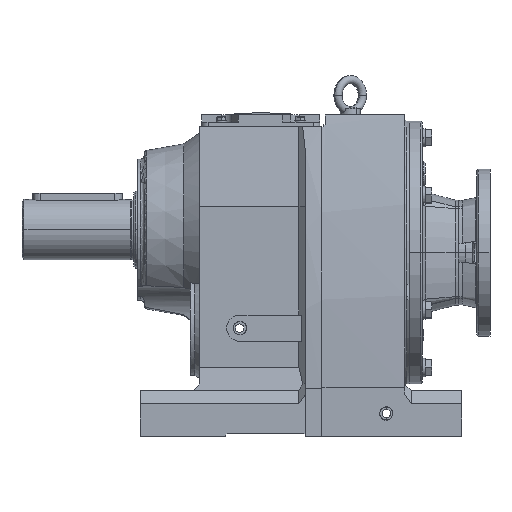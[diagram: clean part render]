
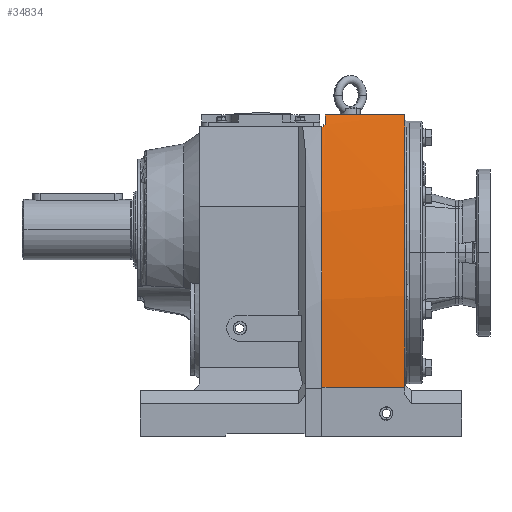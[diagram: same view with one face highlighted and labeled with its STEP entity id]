
A CAD part, front view. The second image highlights one B-rep face of the part: STEP entity #34834.
In plain terms, the highlighted cylindrical face has radius 1250 mm (diameter 2500 mm), a partial arc.
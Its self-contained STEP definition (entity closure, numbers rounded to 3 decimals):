
#2376 = DIRECTION ( 'NONE',  ( -1., 0., 0. ) ) ;
#2377 = DIRECTION ( 'NONE',  ( 0., 0., 1. ) ) ;
#2384 = CARTESIAN_POINT ( 'NONE',  ( 414., -176.92, 174.8 ) ) ;
#2386 = DIRECTION ( 'NONE',  ( 1., 0., 0. ) ) ;
#2389 = CARTESIAN_POINT ( 'NONE',  ( 414., 1023.274, -174.534 ) ) ;
#2421 = DIRECTION ( 'NONE',  ( 0., 0., 1. ) ) ;
#2422 = DIRECTION ( 'NONE',  ( -1., 0., 0. ) ) ;
#2423 = CARTESIAN_POINT ( 'NONE',  ( 288., 1023.274, -174.534 ) ) ;
#2425 = DIRECTION ( 'NONE',  ( 0., 1., 0. ) ) ;
#2426 = DIRECTION ( 'NONE',  ( -1., 0., 0. ) ) ;
#2427 = CARTESIAN_POINT ( 'NONE',  ( 290., 1023.274, -174.534 ) ) ;
#2428 = DIRECTION ( 'NONE',  ( -1., 0., 0. ) ) ;
#2430 = CARTESIAN_POINT ( 'NONE',  ( 293., -181.129, 160. ) ) ;
#3403 = CARTESIAN_POINT ( 'NONE',  ( 293., 1023.274, -174.534 ) ) ;
#3411 = DIRECTION ( 'NONE',  ( 0., 0., 1. ) ) ;
#3413 = DIRECTION ( 'NONE',  ( -1., 0., 0. ) ) ;
#4393 = CYLINDRICAL_SURFACE ( 'NONE', #7205, 1250. ) ;
#4394 = FACE_OUTER_BOUND ( 'NONE', #21848, .T. ) ;
#5054 = DIRECTION ( 'NONE',  ( 1., 0., 0. ) ) ;
#5055 = CARTESIAN_POINT ( 'NONE',  ( 414., -181.958, 157. ) ) ;
#6075 = VECTOR ( 'NONE', #19709, 1000. ) ;
#6399 = ORIENTED_EDGE ( 'NONE', *, *, #11548, .T. ) ;
#6414 = ORIENTED_EDGE ( 'NONE', *, *, #11536, .T. ) ;
#6417 = ORIENTED_EDGE ( 'NONE', *, *, #7178, .T. ) ;
#6419 = ORIENTED_EDGE ( 'NONE', *, *, #11541, .F. ) ;
#6422 = ORIENTED_EDGE ( 'NONE', *, *, #11550, .F. ) ;
#6427 = ORIENTED_EDGE ( 'NONE', *, *, #11549, .F. ) ;
#6429 = ORIENTED_EDGE ( 'NONE', *, *, #33083, .F. ) ;
#6432 = ORIENTED_EDGE ( 'NONE', *, *, #11542, .F. ) ;
#7178 = EDGE_CURVE ( 'NONE', #23462, #23908, #31562, .T. ) ;
#7205 = AXIS2_PLACEMENT_3D ( 'NONE', #9197, #9697, #9696 ) ;
#9197 = CARTESIAN_POINT ( 'NONE',  ( 414., 1023.274, -174.534 ) ) ;
#9696 = DIRECTION ( 'NONE',  ( 0., 0., 1. ) ) ;
#9697 = DIRECTION ( 'NONE',  ( -1., 0., 0. ) ) ;
#10672 = LINE ( 'NONE', #5055, #22118 ) ;
#11536 = EDGE_CURVE ( 'NONE', #23908, #23747, #15542, .T. ) ;
#11541 = EDGE_CURVE ( 'NONE', #23611, #23747, #12112, .T. ) ;
#11542 = EDGE_CURVE ( 'NONE', #23767, #23611, #15438, .T. ) ;
#11548 = EDGE_CURVE ( 'NONE', #23767, #19479, #12116, .T. ) ;
#11549 = EDGE_CURVE ( 'NONE', #19458, #19479, #15470, .T. ) ;
#11550 = EDGE_CURVE ( 'NONE', #23462, #23835, #15589, .T. ) ;
#12112 = LINE ( 'NONE', #2384, #15603 ) ;
#12116 = LINE ( 'NONE', #2430, #15548 ) ;
#14303 = CARTESIAN_POINT ( 'NONE',  ( 290., -181.129, 160. ) ) ;
#14685 = CARTESIAN_POINT ( 'NONE',  ( 290., -181.958, 157. ) ) ;
#15324 = AXIS2_PLACEMENT_3D ( 'NONE', #3403, #3413, #3411 ) ;
#15418 = AXIS2_PLACEMENT_3D ( 'NONE', #2389, #2376, #2377 ) ;
#15438 = CIRCLE ( 'NONE', #15324, 1250. ) ;
#15470 = CIRCLE ( 'NONE', #15525, 1250. ) ;
#15525 = AXIS2_PLACEMENT_3D ( 'NONE', #2427, #2426, #2425 ) ;
#15542 = CIRCLE ( 'NONE', #15418, 1250. ) ;
#15548 = VECTOR ( 'NONE', #2428, 1000. ) ;
#15563 = AXIS2_PLACEMENT_3D ( 'NONE', #2423, #2422, #2421 ) ;
#15589 = CIRCLE ( 'NONE', #15563, 1250. ) ;
#15603 = VECTOR ( 'NONE', #2386, 1000. ) ;
#19458 = VERTEX_POINT ( 'NONE', #14685 ) ;
#19479 = VERTEX_POINT ( 'NONE', #14303 ) ;
#19709 = DIRECTION ( 'NONE',  ( 1., 0., 0. ) ) ;
#20447 = CARTESIAN_POINT ( 'NONE',  ( 414., -225., -240.2 ) ) ;
#21848 = EDGE_LOOP ( 'NONE', ( #6427, #6429, #6422, #6417, #6414, #6419, #6432, #6399 ) ) ;
#22118 = VECTOR ( 'NONE', #5054, 1000. ) ;
#23462 = VERTEX_POINT ( 'NONE', #25848 ) ;
#23611 = VERTEX_POINT ( 'NONE', #24947 ) ;
#23747 = VERTEX_POINT ( 'NONE', #24610 ) ;
#23767 = VERTEX_POINT ( 'NONE', #26392 ) ;
#23835 = VERTEX_POINT ( 'NONE', #25571 ) ;
#23908 = VERTEX_POINT ( 'NONE', #24585 ) ;
#24585 = CARTESIAN_POINT ( 'NONE',  ( 414., -225., -240.2 ) ) ;
#24610 = CARTESIAN_POINT ( 'NONE',  ( 414., -176.92, 174.8 ) ) ;
#24947 = CARTESIAN_POINT ( 'NONE',  ( 293., -176.92, 174.8 ) ) ;
#25571 = CARTESIAN_POINT ( 'NONE',  ( 288., -181.958, 157. ) ) ;
#25848 = CARTESIAN_POINT ( 'NONE',  ( 288., -225., -240.2 ) ) ;
#26392 = CARTESIAN_POINT ( 'NONE',  ( 293., -181.129, 160. ) ) ;
#31562 = LINE ( 'NONE', #20447, #6075 ) ;
#33083 = EDGE_CURVE ( 'NONE', #23835, #19458, #10672, .T. ) ;
#34834 = ADVANCED_FACE ( 'NONE', ( #4394 ), #4393, .T. ) ;
